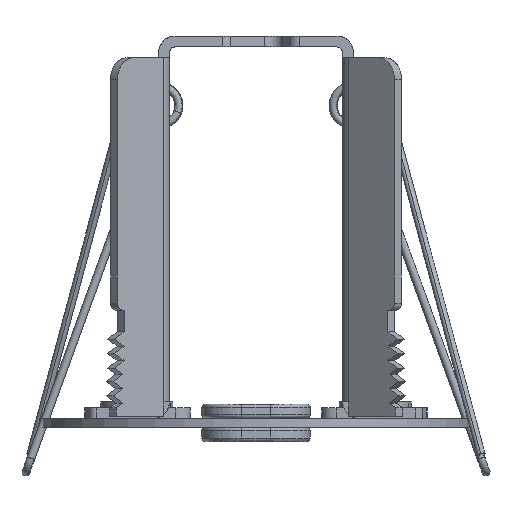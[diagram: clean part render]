
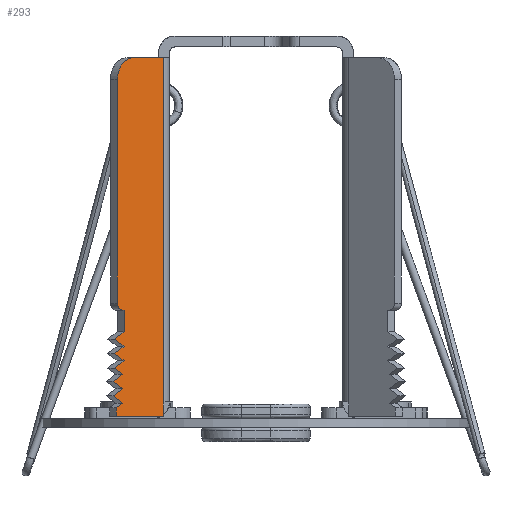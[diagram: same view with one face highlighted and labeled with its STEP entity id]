
A CAD part, front view. The second image highlights one B-rep face of the part: STEP entity #293.
In plain terms, the highlighted planar face has unit normal (0.643, -0.766, 0).
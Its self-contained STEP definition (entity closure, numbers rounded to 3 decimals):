
#293=ADVANCED_FACE('',(#897),#9031,.T.);
#897=FACE_OUTER_BOUND('',#1461,.T.);
#1461=EDGE_LOOP('',(#2353,#2354,#2355,#2356,#2357,#2358,#2359,#2360,#2361,
#2362,#2363,#2364,#2365,#2366,#2367,#2368,#2369,#2370,#2371,#2372,#2373));
#2353=ORIENTED_EDGE('',*,*,#5220,.F.);
#2354=ORIENTED_EDGE('',*,*,#5128,.F.);
#2355=ORIENTED_EDGE('',*,*,#5073,.F.);
#2356=ORIENTED_EDGE('',*,*,#5129,.F.);
#2357=ORIENTED_EDGE('',*,*,#5130,.F.);
#2358=ORIENTED_EDGE('',*,*,#5131,.F.);
#2359=ORIENTED_EDGE('',*,*,#5132,.F.);
#2360=ORIENTED_EDGE('',*,*,#5133,.F.);
#2361=ORIENTED_EDGE('',*,*,#5134,.F.);
#2362=ORIENTED_EDGE('',*,*,#5135,.F.);
#2363=ORIENTED_EDGE('',*,*,#5136,.F.);
#2364=ORIENTED_EDGE('',*,*,#5137,.F.);
#2365=ORIENTED_EDGE('',*,*,#5138,.F.);
#2366=ORIENTED_EDGE('',*,*,#5139,.F.);
#2367=ORIENTED_EDGE('',*,*,#5140,.F.);
#2368=ORIENTED_EDGE('',*,*,#5141,.T.);
#2369=ORIENTED_EDGE('',*,*,#5142,.F.);
#2370=ORIENTED_EDGE('',*,*,#5124,.F.);
#2371=ORIENTED_EDGE('',*,*,#5143,.T.);
#2372=ORIENTED_EDGE('',*,*,#5216,.F.);
#2373=ORIENTED_EDGE('',*,*,#5127,.F.);
#5073=EDGE_CURVE('',#8045,#8046,#6517,.T.);
#5124=EDGE_CURVE('',#8093,#7991,#6566,.T.);
#5127=EDGE_CURVE('',#8116,#8117,#6567,.T.);
#5128=EDGE_CURVE('',#8046,#8118,#6568,.T.);
#5129=EDGE_CURVE('',#8119,#8045,#6569,.T.);
#5130=EDGE_CURVE('',#8120,#8119,#6570,.T.);
#5131=EDGE_CURVE('',#8121,#8120,#6571,.T.);
#5132=EDGE_CURVE('',#8122,#8121,#6572,.T.);
#5133=EDGE_CURVE('',#8123,#8122,#6573,.T.);
#5134=EDGE_CURVE('',#8124,#8123,#6574,.T.);
#5135=EDGE_CURVE('',#8125,#8124,#6575,.T.);
#5136=EDGE_CURVE('',#8126,#8125,#6576,.T.);
#5137=EDGE_CURVE('',#8127,#8126,#6577,.T.);
#5138=EDGE_CURVE('',#8128,#8127,#6578,.T.);
#5139=EDGE_CURVE('',#8129,#8128,#6579,.T.);
#5140=EDGE_CURVE('',#8100,#8129,#6580,.T.);
#5141=EDGE_CURVE('',#8100,#8098,#6581,.T.);
#5142=EDGE_CURVE('',#7991,#8098,#6582,.T.);
#5143=EDGE_CURVE('',#8093,#8092,#6583,.T.);
#5216=EDGE_CURVE('',#8117,#8092,#7373,.T.);
#5220=EDGE_CURVE('',#8118,#8116,#7375,.T.);
#6517=B_SPLINE_CURVE_WITH_KNOTS('',1,(#11816,#11817),.UNSPECIFIED.,.F.,
 .F.,(2,2),(0.,3.),.UNSPECIFIED.);
#6566=B_SPLINE_CURVE_WITH_KNOTS('',1,(#11920,#11921),.UNSPECIFIED.,.F.,
 .F.,(2,2),(0.,47.7),.UNSPECIFIED.);
#6567=B_SPLINE_CURVE_WITH_KNOTS('',1,(#11928,#11929),.UNSPECIFIED.,.F.,
 .F.,(2,2),(-31.,0.),.UNSPECIFIED.);
#6568=B_SPLINE_CURVE_WITH_KNOTS('',1,(#11930,#11931),.UNSPECIFIED.,.F.,
 .F.,(2,2),(-0.2,0.),.UNSPECIFIED.);
#6569=B_SPLINE_CURVE_WITH_KNOTS('',1,(#11932,#11933),.UNSPECIFIED.,.F.,
 .F.,(2,2),(-2.,0.),.UNSPECIFIED.);
#6570=B_SPLINE_CURVE_WITH_KNOTS('',1,(#11934,#11935),.UNSPECIFIED.,.F.,
 .F.,(2,2),(-2.,0.),.UNSPECIFIED.);
#6571=B_SPLINE_CURVE_WITH_KNOTS('',1,(#11936,#11937),.UNSPECIFIED.,.F.,
 .F.,(2,2),(-2.,0.),.UNSPECIFIED.);
#6572=B_SPLINE_CURVE_WITH_KNOTS('',1,(#11938,#11939),.UNSPECIFIED.,.F.,
 .F.,(2,2),(-2.,0.),.UNSPECIFIED.);
#6573=B_SPLINE_CURVE_WITH_KNOTS('',1,(#11940,#11941),.UNSPECIFIED.,.F.,
 .F.,(2,2),(-2.,0.),.UNSPECIFIED.);
#6574=B_SPLINE_CURVE_WITH_KNOTS('',1,(#11942,#11943),.UNSPECIFIED.,.F.,
 .F.,(2,2),(-1.711,0.),.UNSPECIFIED.);
#6575=B_SPLINE_CURVE_WITH_KNOTS('',1,(#11944,#11945),.UNSPECIFIED.,.F.,
 .F.,(2,2),(-2.,0.),.UNSPECIFIED.);
#6576=B_SPLINE_CURVE_WITH_KNOTS('',1,(#11946,#11947),.UNSPECIFIED.,.F.,
 .F.,(2,2),(-2.,0.),.UNSPECIFIED.);
#6577=B_SPLINE_CURVE_WITH_KNOTS('',1,(#11948,#11949),.UNSPECIFIED.,.F.,
 .F.,(2,2),(-2.,0.),.UNSPECIFIED.);
#6578=B_SPLINE_CURVE_WITH_KNOTS('',1,(#11950,#11951),.UNSPECIFIED.,.F.,
 .F.,(2,2),(-2.,0.),.UNSPECIFIED.);
#6579=B_SPLINE_CURVE_WITH_KNOTS('',1,(#11952,#11953),.UNSPECIFIED.,.F.,
 .F.,(2,2),(-1.304,0.),.UNSPECIFIED.);
#6580=B_SPLINE_CURVE_WITH_KNOTS('',1,(#11954,#11955),.UNSPECIFIED.,.F.,
 .F.,(2,2),(-1.192,0.),.UNSPECIFIED.);
#6581=B_SPLINE_CURVE_WITH_KNOTS('',1,(#11956,#11957),.UNSPECIFIED.,.F.,
 .F.,(2,2),(0.,8.507),.UNSPECIFIED.);
#6582=B_SPLINE_CURVE_WITH_KNOTS('',1,(#11958,#11959),.UNSPECIFIED.,.F.,
 .F.,(2,2),(-2.,0.),.UNSPECIFIED.);
#6583=B_SPLINE_CURVE_WITH_KNOTS('',1,(#11960,#11961),.UNSPECIFIED.,.F.,
 .F.,(2,2),(0.,5.327),.UNSPECIFIED.);
#7373=(
BOUNDED_CURVE()
B_SPLINE_CURVE(2,(#12113,#12114,#12115),.UNSPECIFIED.,.F.,.F.)
B_SPLINE_CURVE_WITH_KNOTS((3,3),(0.,4.712),.UNSPECIFIED.)
CURVE()
GEOMETRIC_REPRESENTATION_ITEM()
RATIONAL_B_SPLINE_CURVE((1.,0.707,1.))
REPRESENTATION_ITEM('')
);
#7375=(
BOUNDED_CURVE()
B_SPLINE_CURVE(2,(#12123,#12124,#12125),.UNSPECIFIED.,.F.,.F.)
B_SPLINE_CURVE_WITH_KNOTS((3,3),(0.,1.571),.UNSPECIFIED.)
CURVE()
GEOMETRIC_REPRESENTATION_ITEM()
RATIONAL_B_SPLINE_CURVE((1.,0.707,1.))
REPRESENTATION_ITEM('')
);
#7991=VERTEX_POINT('',#11129);
#8045=VERTEX_POINT('',#11183);
#8046=VERTEX_POINT('',#11184);
#8092=VERTEX_POINT('',#11230);
#8093=VERTEX_POINT('',#11231);
#8098=VERTEX_POINT('',#11236);
#8100=VERTEX_POINT('',#11238);
#8116=VERTEX_POINT('',#11254);
#8117=VERTEX_POINT('',#11255);
#8118=VERTEX_POINT('',#11256);
#8119=VERTEX_POINT('',#11257);
#8120=VERTEX_POINT('',#11258);
#8121=VERTEX_POINT('',#11259);
#8122=VERTEX_POINT('',#11260);
#8123=VERTEX_POINT('',#11261);
#8124=VERTEX_POINT('',#11262);
#8125=VERTEX_POINT('',#11263);
#8126=VERTEX_POINT('',#11264);
#8127=VERTEX_POINT('',#11265);
#8128=VERTEX_POINT('',#11266);
#8129=VERTEX_POINT('',#11267);
#9031=PLANE('',#9331);
#9331=AXIS2_PLACEMENT_3D('',#10341,#9808,$);
#9808=DIRECTION('',(0.643,-0.766,0.));
#10341=CARTESIAN_POINT('',(-11.466,-9.552,-5.28));
#11129=CARTESIAN_POINT('',(-12.822,-10.689,2.3));
#11183=CARTESIAN_POINT('',(-18.282,-15.271,12.));
#11184=CARTESIAN_POINT('',(-18.282,-15.271,15.));
#11230=CARTESIAN_POINT('',(-16.903,-14.114,50.));
#11231=CARTESIAN_POINT('',(-12.822,-10.689,50.));
#11236=CARTESIAN_POINT('',(-12.822,-10.689,0.3));
#11238=CARTESIAN_POINT('',(-19.338,-16.158,0.3));
#11254=CARTESIAN_POINT('',(-19.201,-16.042,16.));
#11255=CARTESIAN_POINT('',(-19.201,-16.042,47.));
#11256=CARTESIAN_POINT('',(-18.435,-15.399,15.));
#11257=CARTESIAN_POINT('',(-19.608,-16.384,11.));
#11258=CARTESIAN_POINT('',(-18.282,-15.271,10.));
#11259=CARTESIAN_POINT('',(-19.608,-16.384,9.));
#11260=CARTESIAN_POINT('',(-18.282,-15.271,8.));
#11261=CARTESIAN_POINT('',(-19.608,-16.384,7.));
#11262=CARTESIAN_POINT('',(-18.473,-15.432,6.144));
#11263=CARTESIAN_POINT('',(-19.8,-16.545,5.144));
#11264=CARTESIAN_POINT('',(-18.473,-15.432,4.144));
#11265=CARTESIAN_POINT('',(-19.8,-16.545,3.144));
#11266=CARTESIAN_POINT('',(-18.473,-15.432,2.144));
#11267=CARTESIAN_POINT('',(-19.338,-16.158,1.492));
#11816=CARTESIAN_POINT('',(-18.282,-15.271,12.));
#11817=CARTESIAN_POINT('',(-18.282,-15.271,15.));
#11920=CARTESIAN_POINT('',(-12.822,-10.689,50.));
#11921=CARTESIAN_POINT('',(-12.822,-10.689,2.3));
#11928=CARTESIAN_POINT('',(-19.201,-16.042,16.));
#11929=CARTESIAN_POINT('',(-19.201,-16.042,47.));
#11930=CARTESIAN_POINT('',(-18.282,-15.271,15.));
#11931=CARTESIAN_POINT('',(-18.435,-15.399,15.));
#11932=CARTESIAN_POINT('',(-19.608,-16.384,11.));
#11933=CARTESIAN_POINT('',(-18.282,-15.271,12.));
#11934=CARTESIAN_POINT('',(-18.282,-15.271,10.));
#11935=CARTESIAN_POINT('',(-19.608,-16.384,11.));
#11936=CARTESIAN_POINT('',(-19.608,-16.384,9.));
#11937=CARTESIAN_POINT('',(-18.282,-15.271,10.));
#11938=CARTESIAN_POINT('',(-18.282,-15.271,8.));
#11939=CARTESIAN_POINT('',(-19.608,-16.384,9.));
#11940=CARTESIAN_POINT('',(-19.608,-16.384,7.));
#11941=CARTESIAN_POINT('',(-18.282,-15.271,8.));
#11942=CARTESIAN_POINT('',(-18.473,-15.432,6.144));
#11943=CARTESIAN_POINT('',(-19.608,-16.384,7.));
#11944=CARTESIAN_POINT('',(-19.8,-16.545,5.144));
#11945=CARTESIAN_POINT('',(-18.473,-15.432,6.144));
#11946=CARTESIAN_POINT('',(-18.473,-15.432,4.144));
#11947=CARTESIAN_POINT('',(-19.8,-16.545,5.144));
#11948=CARTESIAN_POINT('',(-19.8,-16.545,3.144));
#11949=CARTESIAN_POINT('',(-18.473,-15.432,4.144));
#11950=CARTESIAN_POINT('',(-18.473,-15.432,2.144));
#11951=CARTESIAN_POINT('',(-19.8,-16.545,3.144));
#11952=CARTESIAN_POINT('',(-19.338,-16.158,1.492));
#11953=CARTESIAN_POINT('',(-18.473,-15.432,2.144));
#11954=CARTESIAN_POINT('',(-19.338,-16.158,0.3));
#11955=CARTESIAN_POINT('',(-19.338,-16.158,1.492));
#11956=CARTESIAN_POINT('',(-19.338,-16.158,0.3));
#11957=CARTESIAN_POINT('',(-12.822,-10.689,0.3));
#11958=CARTESIAN_POINT('',(-12.822,-10.689,2.3));
#11959=CARTESIAN_POINT('',(-12.822,-10.689,0.3));
#11960=CARTESIAN_POINT('',(-12.822,-10.689,50.));
#11961=CARTESIAN_POINT('',(-16.903,-14.114,50.));
#12113=CARTESIAN_POINT('',(-19.201,-16.042,47.));
#12114=CARTESIAN_POINT('',(-19.201,-16.042,50.));
#12115=CARTESIAN_POINT('',(-16.903,-14.114,50.));
#12123=CARTESIAN_POINT('',(-18.435,-15.399,15.));
#12124=CARTESIAN_POINT('',(-19.201,-16.042,15.));
#12125=CARTESIAN_POINT('',(-19.201,-16.042,16.));
